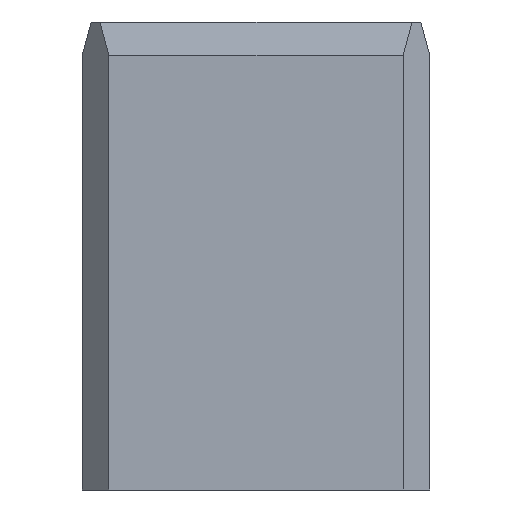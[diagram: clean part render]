
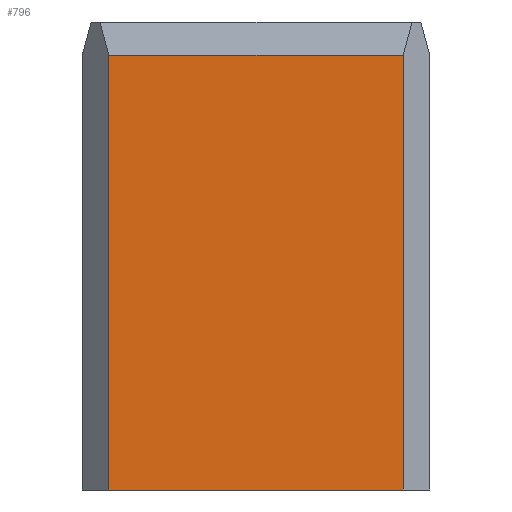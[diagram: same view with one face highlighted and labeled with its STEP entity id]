
A CAD part, left-side view. The second image highlights one B-rep face of the part: STEP entity #796.
In plain terms, the highlighted planar face has unit normal (-1, 0, 0).
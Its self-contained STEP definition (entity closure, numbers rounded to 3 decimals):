
#1 = VECTOR ( 'NONE', #13, 1000. ) ;
#13 = DIRECTION ( 'NONE',  ( 0., -1., 0. ) ) ;
#43 = DIRECTION ( 'NONE',  ( 0., 0., 1. ) ) ;
#49 = CARTESIAN_POINT ( 'NONE',  ( -13., 11., 32.5 ) ) ;
#71 = EDGE_CURVE ( 'NONE', #336, #310, #124, .T. ) ;
#115 = ORIENTED_EDGE ( 'NONE', *, *, #234, .T. ) ;
#124 = LINE ( 'NONE', #375, #278 ) ;
#132 = ORIENTED_EDGE ( 'NONE', *, *, #71, .T. ) ;
#146 = LINE ( 'NONE', #650, #203 ) ;
#163 = CARTESIAN_POINT ( 'NONE',  ( -13., -13., 0. ) ) ;
#168 = DIRECTION ( 'NONE',  ( 0., 0., -1. ) ) ;
#203 = VECTOR ( 'NONE', #284, 1000. ) ;
#216 = LINE ( 'NONE', #163, #1 ) ;
#234 = EDGE_CURVE ( 'NONE', #680, #336, #146, .T. ) ;
#278 = VECTOR ( 'NONE', #305, 1000. ) ;
#284 = DIRECTION ( 'NONE',  ( 0., 1., 0. ) ) ;
#285 = EDGE_LOOP ( 'NONE', ( #788, #115, #132, #813 ) ) ;
#288 = LINE ( 'NONE', #725, #805 ) ;
#305 = DIRECTION ( 'NONE',  ( 0., 0., -1. ) ) ;
#306 = EDGE_CURVE ( 'NONE', #310, #410, #216, .T. ) ;
#310 = VERTEX_POINT ( 'NONE', #653 ) ;
#336 = VERTEX_POINT ( 'NONE', #49 ) ;
#375 = CARTESIAN_POINT ( 'NONE',  ( -13., 11., 35. ) ) ;
#410 = VERTEX_POINT ( 'NONE', #733 ) ;
#424 = FACE_OUTER_BOUND ( 'NONE', #285, .T. ) ;
#445 = AXIS2_PLACEMENT_3D ( 'NONE', #811, #807, #168 ) ;
#555 = PLANE ( 'NONE',  #445 ) ;
#650 = CARTESIAN_POINT ( 'NONE',  ( -13., 11., 32.5 ) ) ;
#653 = CARTESIAN_POINT ( 'NONE',  ( -13., 11., 0. ) ) ;
#680 = VERTEX_POINT ( 'NONE', #791 ) ;
#725 = CARTESIAN_POINT ( 'NONE',  ( -13., -11., 35. ) ) ;
#733 = CARTESIAN_POINT ( 'NONE',  ( -13., -11., 0. ) ) ;
#788 = ORIENTED_EDGE ( 'NONE', *, *, #789, .T. ) ;
#789 = EDGE_CURVE ( 'NONE', #410, #680, #288, .T. ) ;
#791 = CARTESIAN_POINT ( 'NONE',  ( -13., -11., 32.5 ) ) ;
#796 = ADVANCED_FACE ( 'NONE', ( #424 ), #555, .F. ) ;
#805 = VECTOR ( 'NONE', #43, 1000. ) ;
#807 = DIRECTION ( 'NONE',  ( 1., 0., 0. ) ) ;
#811 = CARTESIAN_POINT ( 'NONE',  ( -13., -13., 35. ) ) ;
#813 = ORIENTED_EDGE ( 'NONE', *, *, #306, .T. ) ;
